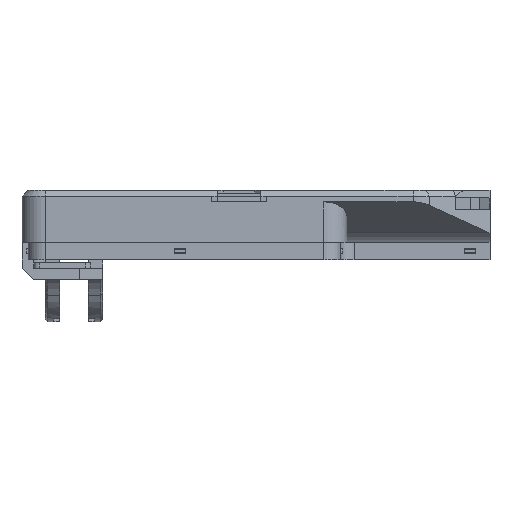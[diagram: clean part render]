
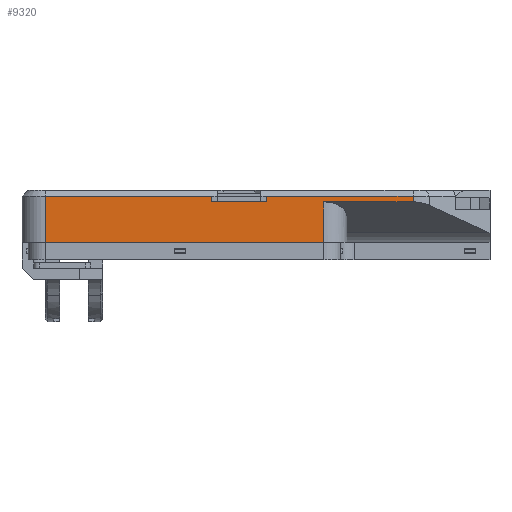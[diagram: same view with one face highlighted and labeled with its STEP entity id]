
A CAD part, front view. The second image highlights one B-rep face of the part: STEP entity #9320.
In plain terms, the highlighted planar face has unit normal (0, -1, 0).
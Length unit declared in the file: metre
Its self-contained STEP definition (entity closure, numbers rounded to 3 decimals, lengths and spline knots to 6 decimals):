
#2073=ORIENTED_EDGE('',*,*,#4133,.T.);
#2074=ORIENTED_EDGE('',*,*,#4136,.T.);
#2075=ORIENTED_EDGE('',*,*,#4137,.F.);
#2076=ORIENTED_EDGE('',*,*,#4138,.T.);
#2077=ORIENTED_EDGE('',*,*,#4134,.T.);
#2078=ORIENTED_EDGE('',*,*,#4013,.F.);
#2079=ORIENTED_EDGE('',*,*,#4010,.T.);
#2080=ORIENTED_EDGE('',*,*,#4006,.T.);
#2081=ORIENTED_EDGE('',*,*,#4036,.T.);
#2082=ORIENTED_EDGE('',*,*,#4065,.T.);
#4006=EDGE_CURVE('',#5182,#5068,#6074,.T.);
#4010=EDGE_CURVE('',#5185,#5182,#6078,.T.);
#4013=EDGE_CURVE('',#5185,#5186,#6081,.T.);
#4036=EDGE_CURVE('',#5068,#5187,#6103,.T.);
#4065=EDGE_CURVE('',#5187,#5199,#6124,.T.);
#4133=EDGE_CURVE('',#5199,#5246,#6175,.T.);
#4134=EDGE_CURVE('',#5247,#5186,#6176,.T.);
#4136=EDGE_CURVE('',#5246,#5248,#6178,.F.);
#4137=EDGE_CURVE('',#5249,#5248,#6179,.T.);
#4138=EDGE_CURVE('',#5249,#5247,#6180,.T.);
#5068=VERTEX_POINT('',#14251);
#5182=VERTEX_POINT('',#14648);
#5185=VERTEX_POINT('',#14656);
#5186=VERTEX_POINT('',#14661);
#5187=VERTEX_POINT('',#14699);
#5199=VERTEX_POINT('',#14764);
#5246=VERTEX_POINT('',#14895);
#5247=VERTEX_POINT('',#14899);
#5248=VERTEX_POINT('',#14903);
#5249=VERTEX_POINT('',#14905);
#6074=LINE('',#14647,#7144);
#6078=LINE('',#14655,#7148);
#6081=LINE('',#14660,#7151);
#6103=LINE('',#14700,#7173);
#6124=LINE('',#14763,#7194);
#6175=LINE('',#14896,#7245);
#6176=LINE('',#14898,#7246);
#6178=LINE('',#14902,#7248);
#6179=LINE('',#14904,#7249);
#6180=LINE('',#14906,#7250);
#7144=VECTOR('',#11763,1.);
#7148=VECTOR('',#11769,1.);
#7151=VECTOR('',#11774,1.);
#7173=VECTOR('',#11828,1.);
#7194=VECTOR('',#11903,1.);
#7245=VECTOR('',#12022,1.);
#7246=VECTOR('',#12025,1.);
#7248=VECTOR('',#12029,1.);
#7249=VECTOR('',#12030,1.);
#7250=VECTOR('',#12031,1.);
#7892=EDGE_LOOP('',(#2073,#2074,#2075,#2076,#2077,#2078,#2079,#2080,#2081,
#2082));
#8463=FACE_BOUND('',#7892,.T.);
#8913=PLANE('',#10039);
#9320=ADVANCED_FACE('',(#8463),#8913,.T.);
#10039=AXIS2_PLACEMENT_3D('',#14901,#12027,#12028);
#11763=DIRECTION('',(0.,0.,1.));
#11769=DIRECTION('',(-1.,0.,0.));
#11774=DIRECTION('',(0.,0.,1.));
#11828=DIRECTION('',(-1.,0.,0.));
#11903=DIRECTION('',(0.,0.,-1.));
#12022=DIRECTION('',(1.,0.,0.));
#12025=DIRECTION('',(-1.,0.,0.));
#12027=DIRECTION('',(0.,-1.,0.));
#12028=DIRECTION('',(1.,0.,0.));
#12029=DIRECTION('',(0.,0.,-1.));
#12030=DIRECTION('',(-1.,0.,0.));
#12031=DIRECTION('',(0.,0.,1.));
#14251=CARTESIAN_POINT('',(-0.199315,-0.0786,0.00625));
#14647=CARTESIAN_POINT('',(-0.199315,-0.0786,0.00525));
#14648=CARTESIAN_POINT('',(-0.199315,-0.0786,0.00425));
#14655=CARTESIAN_POINT('',(-0.189815,-0.0786,0.00425));
#14656=CARTESIAN_POINT('',(-0.180315,-0.0786,0.00425));
#14660=CARTESIAN_POINT('',(-0.180315,-0.0786,0.00525));
#14661=CARTESIAN_POINT('',(-0.180315,-0.0786,0.00625));
#14699=CARTESIAN_POINT('',(-0.257,-0.0786,0.00625));
#14700=CARTESIAN_POINT('',(-0.003,-0.0786,0.00625));
#14763=CARTESIAN_POINT('',(-0.257,-0.0786,0.00825));
#14764=CARTESIAN_POINT('',(-0.257,-0.0786,-0.00975));
#14895=CARTESIAN_POINT('',(-0.1605,-0.0786,-0.00975));
#14896=CARTESIAN_POINT('',(-0.24325,-0.0786,-0.00975));
#14898=CARTESIAN_POINT('',(-0.003,-0.0786,0.00625));
#14899=CARTESIAN_POINT('',(-0.129578,-0.0786,0.00625));
#14901=CARTESIAN_POINT('',(-0.003,-0.0786,0.00825));
#14902=CARTESIAN_POINT('',(-0.1605,-0.0786,0.00425));
#14903=CARTESIAN_POINT('',(-0.1605,-0.0786,0.00425));
#14904=CARTESIAN_POINT('',(0.42625,-0.0786,0.00425));
#14905=CARTESIAN_POINT('',(-0.129578,-0.0786,0.00425));
#14906=CARTESIAN_POINT('',(-0.129578,-0.0786,0.00825));
